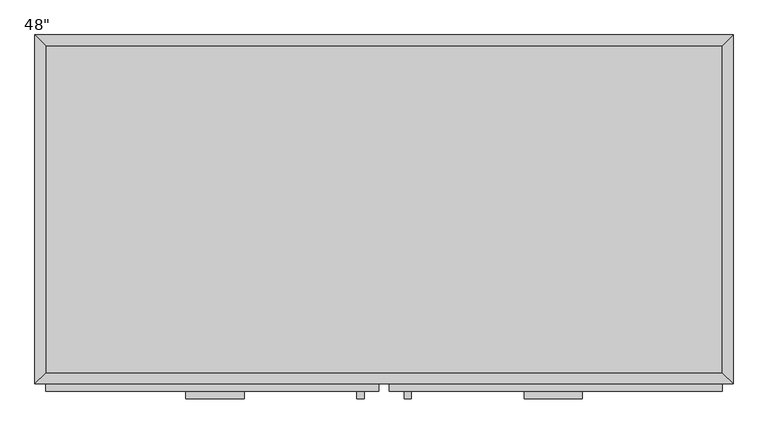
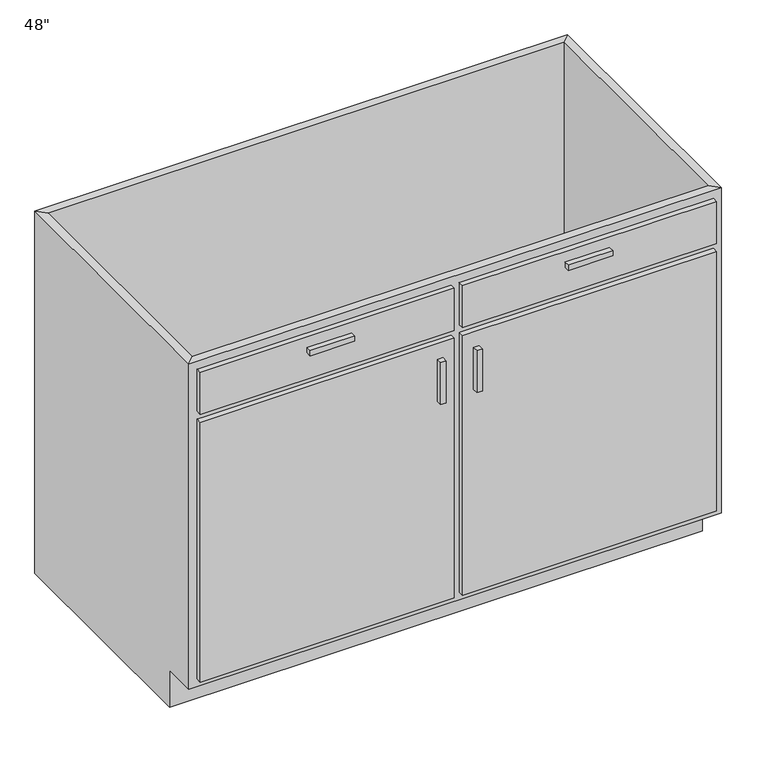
"""IFC4 building model written with IfcOpenShell, lengths in millimetres: furniture geometry."""

from ifc_helpers import new_model, si_unit, frame, origin, place, context, project, spatial, polyline, outline, extrude, faceted_brep, source, transform, mapped, element, save


def furniture_07c0da44(model_context):
    return source(origin(), model_context, "Body", "SolidModel", [
        faceted_brep([(609.2877049, -590.55, 876.3), (609.2877049, -590.55, 88.9), (-571.8122951, -590.55, 88.9), (-571.8122951, -590.55, 876.3), (-590.8622951, -609.6, 876.3), (628.3377049, -609.6, 876.3), (-590.8622951, -609.6, 88.9), (628.3377049, -609.6, 88.9), (-571.8122951, -533.4, 88.9), (-571.8122951, -19.05, 88.9), (-571.8122951, -19.05, 876.3), (-590.8622951, 0.0, 876.3), (-590.8622951, 0.0, 0.0), (-590.8622951, -533.4, 0.0), (-590.8622951, -533.4, 88.9), (609.2877049, -19.05, 88.9), (609.2877049, -19.05, 876.3), (628.3377049, 0.0, 876.3), (628.3377049, 0.0, 0.0), (609.2877049, -533.4, 88.9), (628.3377049, -533.4, 88.9), (628.3377049, -533.4, 0.0)], [[[0, 1, 2, 3]], [[0, 3, 4, 5]], [[5, 4, 6, 7]], [[2, 1, 7, 6]], [[3, 2, 8, 9, 10]], [[4, 3, 10, 11]], [[6, 4, 11, 12, 13, 14]], [[2, 6, 14, 8]], [[10, 9, 15, 16]], [[11, 10, 16, 17]], [[12, 11, 17, 18]], [[1, 0, 16, 15, 19]], [[0, 5, 17, 16]], [[5, 7, 20, 21, 18, 17]], [[7, 1, 19, 20]], [[8, 19, 15, 9]], [[18, 21, 13, 12]], [[13, 21, 20, 19, 8, 14]]]),
        extrude(outline(polyline([(-225.7372951, -635.0), (-327.3372951, -635.0), (-327.3372951, -622.3), (-225.7372951, -622.3), (-225.7372951, -635.0)])), frame((0.0, 0.0, 819.15), z_axis=(0.0, 0.0, 1.0), x_axis=(1.0, 0.0, 0.0)), (0.0, 0.0, 1.0), 12.7),
        extrude(outline(polyline([(364.8127049, -635.0), (263.2127049, -635.0), (263.2127049, -622.3), (364.8127049, -622.3), (364.8127049, -635.0)])), frame((0.0, 0.0, 819.15), z_axis=(0.0, 0.0, 1.0), x_axis=(1.0, 0.0, 0.0)), (0.0, 0.0, 1.0), 12.7),
        extrude(outline(polyline([(-16.1872951, -635.0), (-28.8872951, -635.0), (-28.8872951, -622.3), (-16.1872951, -622.3), (-16.1872951, -635.0)])), frame((0.0, 0.0, 596.9), z_axis=(0.0, 0.0, 1.0), x_axis=(1.0, 0.0, 0.0)), (0.0, 0.0, 1.0), 101.6),
        extrude(outline(polyline([(66.3627049, -635.0), (53.6627049, -635.0), (53.6627049, -622.3), (66.3627049, -622.3), (66.3627049, -635.0)])), frame((0.0, 0.0, 596.9), z_axis=(0.0, 0.0, 1.0), x_axis=(1.0, 0.0, 0.0)), (0.0, 0.0, 1.0), 101.6),
        extrude(outline(polyline([(609.2877049, -19.05), (609.2877049, -590.55), (-571.8122951, -590.55), (-571.8122951, -19.05), (609.2877049, -19.05)])), frame((0.0, 0.0, 88.9), z_axis=(0.0, 0.0, 1.0), x_axis=(1.0, 0.0, 0.0)), (0.0, 0.0, 1.0), 19.05),
        extrude(outline(polyline([(9.2127049, -622.3), (-571.8122951, -622.3), (-571.8122951, -609.6), (9.2127049, -609.6), (9.2127049, -622.3)])), frame((0.0, 0.0, 755.65), z_axis=(0.0, 0.0, 1.0), x_axis=(1.0, 0.0, 0.0)), (0.0, 0.0, 1.0), 101.6),
        extrude(outline(polyline([(609.2877049, -622.3), (28.2627049, -622.3), (28.2627049, -609.6), (609.2877049, -609.6), (609.2877049, -622.3)])), frame((0.0, 0.0, 755.65), z_axis=(0.0, 0.0, 1.0), x_axis=(1.0, 0.0, 0.0)), (0.0, 0.0, 1.0), 101.6),
        extrude(outline(polyline([(9.2127049, -622.3), (-571.8122951, -622.3), (-571.8122951, -609.6), (9.2127049, -609.6), (9.2127049, -622.3)])), frame((0.0, 0.0, 107.95), z_axis=(0.0, 0.0, 1.0), x_axis=(1.0, 0.0, 0.0)), (0.0, 0.0, 1.0), 628.65),
        extrude(outline(polyline([(609.2877049, -622.3), (28.2627049, -622.3), (28.2627049, -609.6), (609.2877049, -609.6), (609.2877049, -622.3)])), frame((0.0, 0.0, 107.95), z_axis=(0.0, 0.0, 1.0), x_axis=(1.0, 0.0, 0.0)), (0.0, 0.0, 1.0), 628.65),
    ])


if __name__ == "__main__":
    model = new_model("IFC4")
    model_context = context("Model", 3, world=origin())
    ifc_project = project(units=[si_unit("LENGTHUNIT", "METRE", prefix="MILLI")], contexts=[model_context])
    site = spatial("IfcSite", under=ifc_project)
    building = spatial("IfcBuilding", under=site)
    placement = place(None, origin())
    furniture_shape = furniture_07c0da44(model_context)
    element("IfcFurniture", 1, ObjectType="Base Cabinet-Double Door & 2 Drawer : 48\"", at=placement, inside=building, context=model_context, shape_type="MappedRepresentation", body=[
        mapped(furniture_shape, transform((0.0, 0.0, 0.0), x_axis=(1.0, 0.0, 0.0), y_axis=(0.0, 1.0, 0.0), z_axis=(0.0, 0.0, 1.0))),
    ])
    save(model, "model.ifc")
